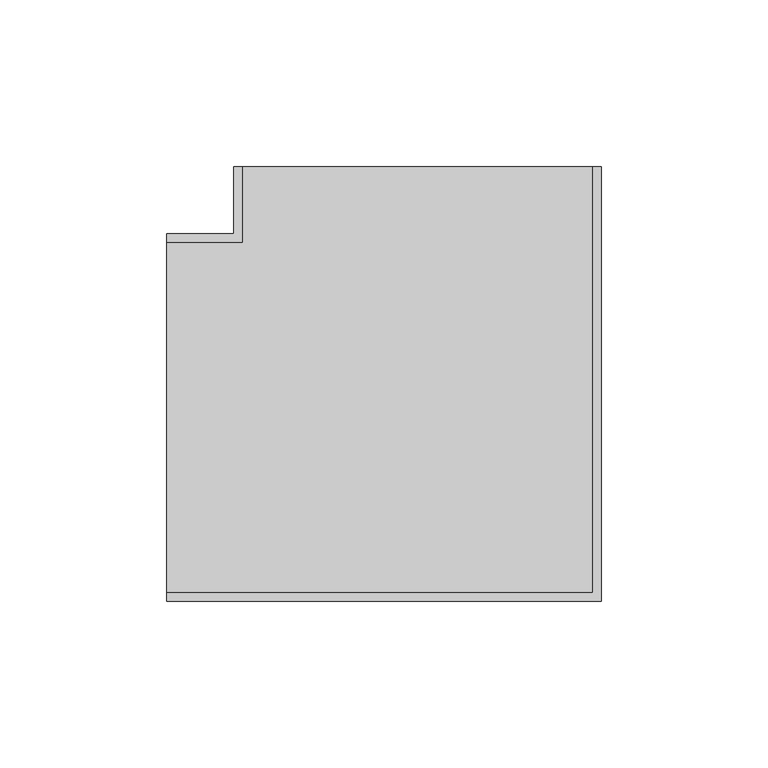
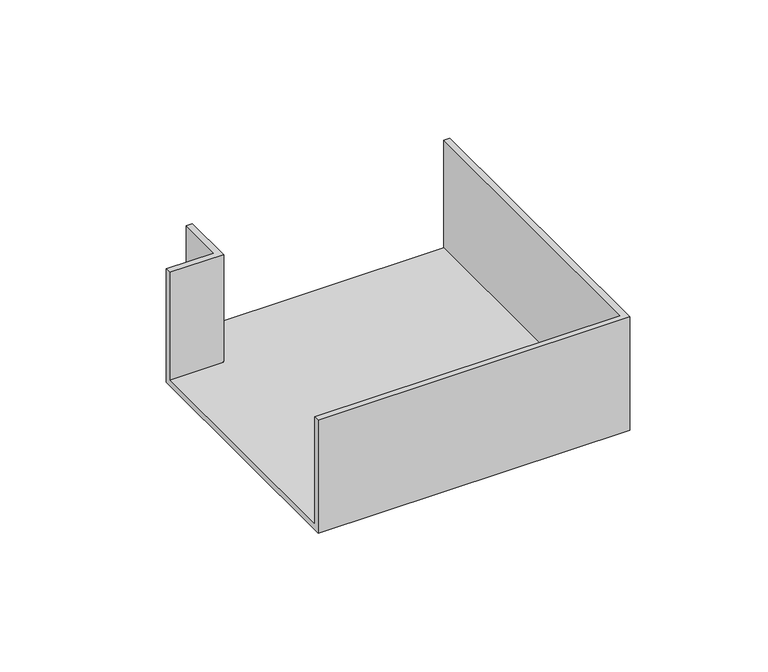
"""IFC4 building model written with IfcOpenShell, lengths in millimetres: cable carrier fitting geometry, КНС_УголПлоский_ILF_DKC : Угол плоский белый."""

from ifc_helpers import new_model, si_unit, origin, place, context, project, spatial, faceted_brep, source, transform, mapped, element, save


def cable_carrier_fitting_ebdb16b8(model_context):
    return source(origin(), model_context, "Body", "Brep", [
        faceted_brep([(-75.0, 55.0, -25.0), (-75.0, -55.0, -25.0), (-75.0, -55.0, 25.0), (-75.0, -52.46, 25.0), (-75.0, -52.46, -22.46), (-75.0, 52.46, -22.46), (-75.0, 52.46, 25.0), (-75.0, 55.0, 25.0), (-55.0, 55.0, -25.0), (-55.0, 75.0, -25.0), (55.0, 75.0, -25.0), (55.0, -55.0, -25.0), (55.0, -55.0, 25.0), (55.0, 75.0, 25.0), (52.46, 75.0, 25.0), (52.46, -52.46, 25.0), (52.46, -52.46, -22.46), (52.46, 75.0, -22.46), (-52.46, 75.0, -22.46), (-52.46, 52.46, -22.46), (-52.46, 52.46, 25.0), (-52.46, 75.0, 25.0), (-55.0, 75.0, 25.0), (-55.0, 55.0, 25.0)], [[[0, 1, 2, 3, 4, 5, 6, 7]], [[1, 0, 8, 9, 10, 11]], [[2, 1, 11, 12]], [[3, 2, 12, 13, 14, 15]], [[4, 3, 15, 16]], [[5, 4, 16, 17, 18, 19]], [[6, 5, 19, 20]], [[7, 6, 20, 21, 22, 23]], [[0, 7, 23, 8]], [[9, 22, 21, 18, 17, 14, 13, 10]], [[12, 11, 10, 13]], [[16, 15, 14, 17]], [[20, 19, 18, 21]], [[8, 23, 22, 9]]]),
    ])


if __name__ == "__main__":
    model = new_model("IFC4")
    model_context = context("Model", 3, world=origin())
    ifc_project = project(units=[si_unit("LENGTHUNIT", "METRE", prefix="MILLI")], contexts=[model_context])
    site = spatial("IfcSite", under=ifc_project)
    building = spatial("IfcBuilding", under=site)
    placement = place(None, origin())
    cable_carrier_fitting_shape = cable_carrier_fitting_ebdb16b8(model_context)
    element("IfcCableCarrierFitting", 1, ObjectType="КНС_УголПлоский_ILF_DKC : Угол плоский белый", at=placement, inside=building, context=model_context, shape_type="MappedRepresentation", body=[
        mapped(cable_carrier_fitting_shape, transform((0.0, 0.0, 0.0), x_axis=(1.0, 0.0, 0.0), y_axis=(0.0, 1.0, 0.0), z_axis=(0.0, 0.0, 1.0))),
    ])
    save(model, "model.ifc")
